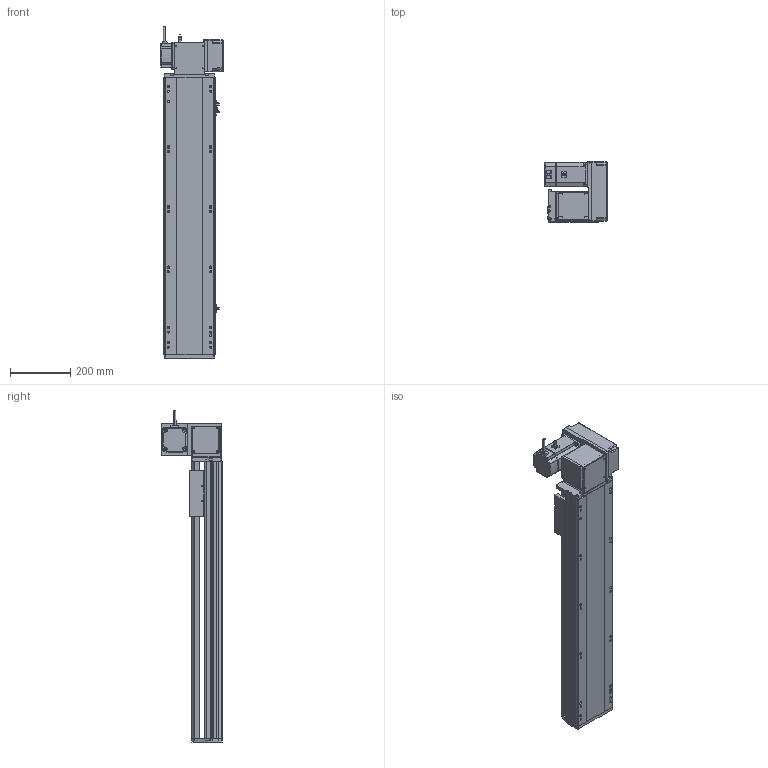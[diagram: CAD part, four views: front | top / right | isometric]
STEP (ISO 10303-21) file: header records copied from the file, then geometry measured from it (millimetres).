
FILE_DESCRIPTION (( 'STEP AP214' ), '1' );
FILE_NAME ('RTB17S-XX-650-RW-M75-C4.STEP', '2025-12-12T02:33:50', ( '' ), ( '' ), 'SwSTEP 2.0', 'SolidWorks 2018', '' );
FILE_SCHEMA (( 'AUTOMOTIVE_DESIGN' ));
Length unit declared in the file: millimetre
Products named in the file (15): 750W萇儂^RTB17S-XX-XX-RW-M75-C4; RTB22S-GY-017P^RTB17S-RW-々湍釱蚾饜-750W_RTB17S-XX-XX-RW-M75-C4; RTB17S-L-004-賑釱^RTB17S-賑釱_RTB17S-XX-XX-RW-M75-C4; EE672^RTB17S-XX-XX-RW-M75-C4; RTB17S-RW-々湍釱蚾饜-750W^RTB17S-XX-XX-RW-M75-C4; RTB22S-GY-005P^RTB17S-RW-々湍釱蚾饜-750W_RTB17S-XX-XX-RW-M75-C4; RTB17S-XX-650-RW-M75-C4; RTH13-BL-012覜茼え俋离^RTB17S-賑釱_RTB17S-XX-XX-RW-M75-C4; RTB22S-GY-008-M75--萇儂啣^RTB17S-RW-々湍釱蚾饜-750W_RTB17S-XX-XX-RW-M75-C4; RTB17S-賑釱^RTB17S-XX-XX-RW-M75-C4; RMP17S-L-014-T20-P75--々湍釱^RTB17S-RW-々湍釱蚾饜-750W_RTB17S-XX-XX-RW-M75-C4; RTB17S-L-001-耜醱啣^RTB17S-XX-XX-RW-M75-C4; RTB22S-GY-018P^RTB17S-RW-々湍釱蚾饜-750W_RTB17S-XX-XX-RW-M75-C4; RTB17-R-011菁釱^RTB17S-XX-XX-RW-M75-C4; RTB17S-L-007奻裔^RTB17S-XX-XX-RW-M75-C4
Assembly tree (17 placements, depth 3):
  RTB17S-XX-650-RW-M75-C4
    RTB17-R-011菁釱^RTB17S-XX-XX-RW-M75-C4
    EE672^RTB17S-XX-XX-RW-M75-C4  x3
    RTB17S-L-001-耜醱啣^RTB17S-XX-XX-RW-M75-C4
    RTB17S-賑釱^RTB17S-XX-XX-RW-M75-C4
      RTB17S-L-004-賑釱^RTB17S-賑釱_RTB17S-XX-XX-RW-M75-C4
      RTH13-BL-012覜茼え俋离^RTB17S-賑釱_RTB17S-XX-XX-RW-M75-C4
    RTB17S-L-007奻裔^RTB17S-XX-XX-RW-M75-C4
    750W萇儂^RTB17S-XX-XX-RW-M75-C4
    RTB17S-RW-々湍釱蚾饜-750W^RTB17S-XX-XX-RW-M75-C4
      RMP17S-L-014-T20-P75--々湍釱^RTB17S-RW-々湍釱蚾饜-750W_RTB17S-XX-XX-RW-M75-C4
      RTB22S-GY-005P^RTB17S-RW-々湍釱蚾饜-750W_RTB17S-XX-XX-RW-M75-C4
      RTB22S-GY-017P^RTB17S-RW-々湍釱蚾饜-750W_RTB17S-XX-XX-RW-M75-C4  x2
      RTB22S-GY-008-M75--萇儂啣^RTB17S-RW-々湍釱蚾饜-750W_RTB17S-XX-XX-RW-M75-C4
      RTB22S-GY-018P^RTB17S-RW-々湍釱蚾饜-750W_RTB17S-XX-XX-RW-M75-C4
Bounding box: 207.4 x 201.5 x 1102.2 mm (x, y, z)
Volume: 10007991.2 mm3; surface area: 1642802.5 mm2
Topology: 17 solids, 17 shells, 2073 faces, 5728 edges, 3698 vertices
Faces by surface type: plane 968, cylinder 689, bspline 294, cone 110, sphere 8, torus 4
Entity records: 57334 total; most frequent: CARTESIAN_POINT 16792, ORIENTED_EDGE 8300, DIRECTION 7772, EDGE_CURVE 4150, AXIS2_PLACEMENT_3D 2718, VERTEX_POINT 2702, VECTOR 2336, LINE 2336
